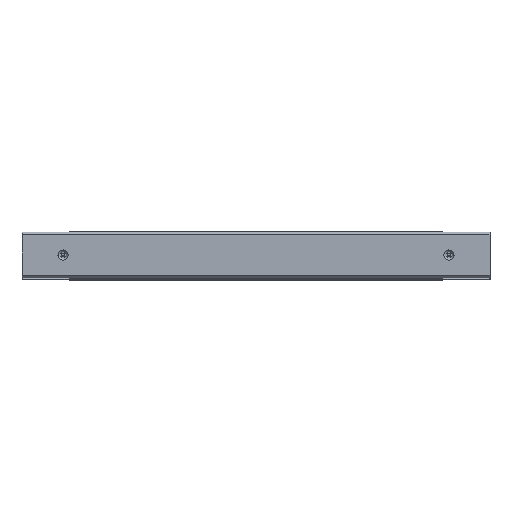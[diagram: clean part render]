
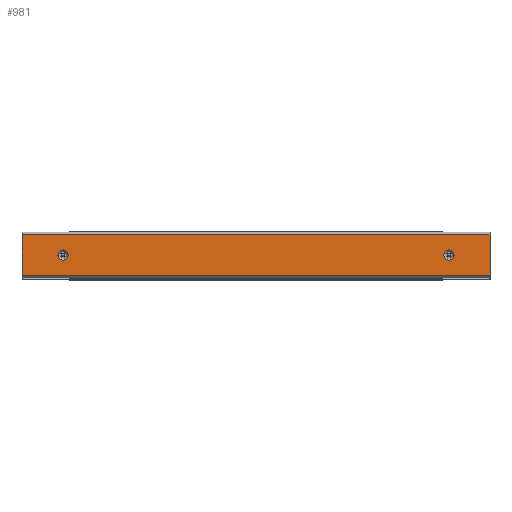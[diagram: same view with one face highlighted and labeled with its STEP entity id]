
A CAD part, top view. The second image highlights one B-rep face of the part: STEP entity #981.
In plain terms, the highlighted planar face has unit normal (0, 0, 1).
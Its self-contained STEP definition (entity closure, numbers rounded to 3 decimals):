
#12 = CIRCLE ( 'NONE', #258, 10.85 ) ;
#35 = CARTESIAN_POINT ( 'NONE',  ( 0., -43.303, 0. ) ) ;
#54 = DIRECTION ( 'NONE',  ( 0., -1., 0. ) ) ;
#155 = LINE ( 'NONE', #456, #958 ) ;
#157 = VERTEX_POINT ( 'NONE', #389 ) ;
#166 = DIRECTION ( 'NONE',  ( 1., 0., 0. ) ) ;
#171 = CIRCLE ( 'NONE', #1679, 10.85 ) ;
#181 = DIRECTION ( 'NONE',  ( 0., 0., 1. ) ) ;
#185 = CARTESIAN_POINT ( 'NONE',  ( -421.1, 0., 0. ) ) ;
#190 = DIRECTION ( 'NONE',  ( 0., 0., 1. ) ) ;
#233 = VECTOR ( 'NONE', #643, 1000. ) ;
#258 = AXIS2_PLACEMENT_3D ( 'NONE', #331, #190, #54 ) ;
#301 = ORIENTED_EDGE ( 'NONE', *, *, #1148, .F. ) ;
#331 = CARTESIAN_POINT ( 'NONE',  ( -410.25, 0., 0. ) ) ;
#340 = DIRECTION ( 'NONE',  ( 0., 1., 0. ) ) ;
#389 = CARTESIAN_POINT ( 'NONE',  ( 497.5, 43.303, 0. ) ) ;
#456 = CARTESIAN_POINT ( 'NONE',  ( 497.5, 43.303, 0. ) ) ;
#502 = PLANE ( 'NONE',  #1312 ) ;
#519 = FACE_BOUND ( 'NONE', #1113, .T. ) ;
#552 = VERTEX_POINT ( 'NONE', #656 ) ;
#643 = DIRECTION ( 'NONE',  ( 1., 0., 0. ) ) ;
#645 = DIRECTION ( 'NONE',  ( 0., -1., 0. ) ) ;
#656 = CARTESIAN_POINT ( 'NONE',  ( 421.1, 0., 0. ) ) ;
#662 = CARTESIAN_POINT ( 'NONE',  ( 410.25, 0., 0. ) ) ;
#739 = DIRECTION ( 'NONE',  ( 0., -1., 0. ) ) ;
#763 = DIRECTION ( 'NONE',  ( 0., -1., 0. ) ) ;
#768 = VERTEX_POINT ( 'NONE', #1202 ) ;
#786 = LINE ( 'NONE', #1072, #1381 ) ;
#788 = CARTESIAN_POINT ( 'NONE',  ( 497.5, -43.303, 0. ) ) ;
#811 = ORIENTED_EDGE ( 'NONE', *, *, #1650, .F. ) ;
#817 = EDGE_CURVE ( 'NONE', #1033, #157, #892, .T. ) ;
#820 = EDGE_LOOP ( 'NONE', ( #1448, #1035, #1079, #1594 ) ) ;
#852 = VERTEX_POINT ( 'NONE', #1341 ) ;
#892 = LINE ( 'NONE', #1331, #1349 ) ;
#899 = CIRCLE ( 'NONE', #1707, 10.85 ) ;
#900 = DIRECTION ( 'NONE',  ( 0., 0., 1. ) ) ;
#932 = EDGE_CURVE ( 'NONE', #1622, #552, #899, .T. ) ;
#958 = VECTOR ( 'NONE', #1304, 1000. ) ;
#981 = ADVANCED_FACE ( 'NONE', ( #1668, #1816, #519 ), #502, .T. ) ;
#1021 = CARTESIAN_POINT ( 'NONE',  ( -410.25, 0., 0. ) ) ;
#1033 = VERTEX_POINT ( 'NONE', #1579 ) ;
#1035 = ORIENTED_EDGE ( 'NONE', *, *, #817, .F. ) ;
#1072 = CARTESIAN_POINT ( 'NONE',  ( -497.5, 43.303, 0. ) ) ;
#1079 = ORIENTED_EDGE ( 'NONE', *, *, #1627, .F. ) ;
#1106 = CIRCLE ( 'NONE', #1285, 10.85 ) ;
#1113 = EDGE_LOOP ( 'NONE', ( #811, #1725 ) ) ;
#1115 = DIRECTION ( 'NONE',  ( 0., -1., 0. ) ) ;
#1148 = EDGE_CURVE ( 'NONE', #768, #1829, #1106, .T. ) ;
#1202 = CARTESIAN_POINT ( 'NONE',  ( -399.4, 0., 0. ) ) ;
#1212 = CARTESIAN_POINT ( 'NONE',  ( 410.25, 0., 0. ) ) ;
#1234 = DIRECTION ( 'NONE',  ( 0., 0., 1. ) ) ;
#1249 = DIRECTION ( 'NONE',  ( 0., 0., 1. ) ) ;
#1254 = EDGE_CURVE ( 'NONE', #157, #1309, #155, .T. ) ;
#1285 = AXIS2_PLACEMENT_3D ( 'NONE', #1021, #900, #739 ) ;
#1287 = EDGE_LOOP ( 'NONE', ( #1390, #301 ) ) ;
#1304 = DIRECTION ( 'NONE',  ( 0., -1., 0. ) ) ;
#1309 = VERTEX_POINT ( 'NONE', #788 ) ;
#1312 = AXIS2_PLACEMENT_3D ( 'NONE', #1370, #1249, #645 ) ;
#1331 = CARTESIAN_POINT ( 'NONE',  ( 0., 43.303, 0. ) ) ;
#1339 = LINE ( 'NONE', #35, #233 ) ;
#1341 = CARTESIAN_POINT ( 'NONE',  ( -497.5, -43.303, 0. ) ) ;
#1349 = VECTOR ( 'NONE', #166, 1000. ) ;
#1370 = CARTESIAN_POINT ( 'NONE',  ( 0., 43.303, 0. ) ) ;
#1381 = VECTOR ( 'NONE', #340, 1000. ) ;
#1390 = ORIENTED_EDGE ( 'NONE', *, *, #1589, .F. ) ;
#1448 = ORIENTED_EDGE ( 'NONE', *, *, #1254, .F. ) ;
#1579 = CARTESIAN_POINT ( 'NONE',  ( -497.5, 43.303, 0. ) ) ;
#1589 = EDGE_CURVE ( 'NONE', #1829, #768, #12, .T. ) ;
#1594 = ORIENTED_EDGE ( 'NONE', *, *, #1831, .T. ) ;
#1622 = VERTEX_POINT ( 'NONE', #1782 ) ;
#1627 = EDGE_CURVE ( 'NONE', #852, #1033, #786, .T. ) ;
#1650 = EDGE_CURVE ( 'NONE', #552, #1622, #171, .T. ) ;
#1668 = FACE_OUTER_BOUND ( 'NONE', #820, .T. ) ;
#1679 = AXIS2_PLACEMENT_3D ( 'NONE', #1212, #181, #763 ) ;
#1707 = AXIS2_PLACEMENT_3D ( 'NONE', #662, #1234, #1115 ) ;
#1725 = ORIENTED_EDGE ( 'NONE', *, *, #932, .F. ) ;
#1782 = CARTESIAN_POINT ( 'NONE',  ( 399.4, 0., 0. ) ) ;
#1816 = FACE_BOUND ( 'NONE', #1287, .T. ) ;
#1829 = VERTEX_POINT ( 'NONE', #185 ) ;
#1831 = EDGE_CURVE ( 'NONE', #852, #1309, #1339, .T. ) ;
